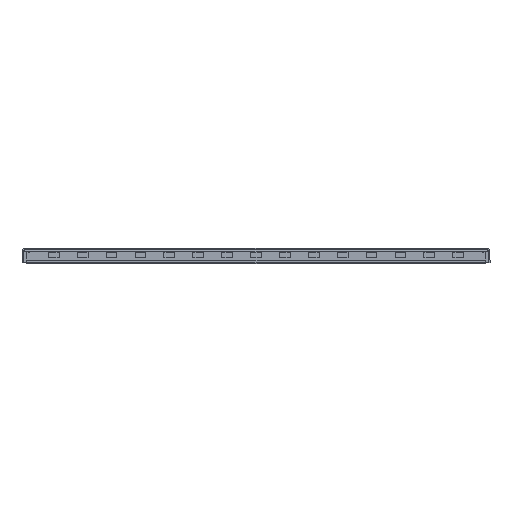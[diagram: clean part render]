
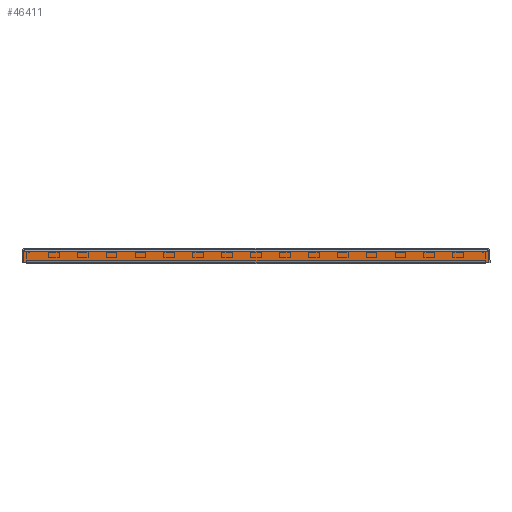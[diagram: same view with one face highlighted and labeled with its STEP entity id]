
A CAD part, front view. The second image highlights one B-rep face of the part: STEP entity #46411.
In plain terms, the highlighted planar face has unit normal (0, -1, 0).
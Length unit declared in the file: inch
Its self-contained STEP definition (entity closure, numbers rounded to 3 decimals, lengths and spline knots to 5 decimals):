
#46 = EDGE_CURVE ( 'NONE', #9383, #48178, #5247, .T. ) ;
#5247 = LINE ( 'NONE', #16031, #29472 ) ;
#5549 = LINE ( 'NONE', #61439, #57057 ) ;
#5877 = EDGE_CURVE ( 'NONE', #9383, #48758, #20850, .T. ) ;
#6692 = DIRECTION ( 'NONE',  ( 0., 1., 0. ) ) ;
#7400 = EDGE_LOOP ( 'NONE', ( #22095, #56814, #12766, #28206 ) ) ;
#9383 = VERTEX_POINT ( 'NONE', #33970 ) ;
#11162 = DIRECTION ( 'NONE',  ( 0., 0., -1. ) ) ;
#11185 = DIRECTION ( 'NONE',  ( 0., 0., -1. ) ) ;
#12766 = ORIENTED_EDGE ( 'NONE', *, *, #25135, .F. ) ;
#16031 = CARTESIAN_POINT ( 'NONE',  ( -0.75016, -0.875, -0.903 ) ) ;
#19339 = VECTOR ( 'NONE', #37791, 39.37008 ) ;
#20850 = LINE ( 'NONE', #23213, #19339 ) ;
#22095 = ORIENTED_EDGE ( 'NONE', *, *, #5877, .F. ) ;
#23213 = CARTESIAN_POINT ( 'NONE',  ( 31.525, -0.875, -0.08 ) ) ;
#25135 = EDGE_CURVE ( 'NONE', #26555, #48178, #5549, .T. ) ;
#26555 = VERTEX_POINT ( 'NONE', #53627 ) ;
#27873 = EDGE_CURVE ( 'NONE', #48758, #26555, #49594, .T. ) ;
#28206 = ORIENTED_EDGE ( 'NONE', *, *, #27873, .F. ) ;
#29472 = VECTOR ( 'NONE', #11185, 39.37008 ) ;
#32366 = DIRECTION ( 'NONE',  ( -1., 0., 0. ) ) ;
#33970 = CARTESIAN_POINT ( 'NONE',  ( -0.75016, -0.875, -0.08 ) ) ;
#35645 = CARTESIAN_POINT ( 'NONE',  ( 31.525, -0.875, -0.903 ) ) ;
#36726 = VECTOR ( 'NONE', #11162, 39.37008 ) ;
#37791 = DIRECTION ( 'NONE',  ( 1., 0., 0. ) ) ;
#40518 = DIRECTION ( 'NONE',  ( 0., 0., 1. ) ) ;
#45195 = PLANE ( 'NONE',  #50297 ) ;
#46411 = ADVANCED_FACE ( 'NONE', ( #54097 ), #45195, .F. ) ;
#46803 = CARTESIAN_POINT ( 'NONE',  ( 31.40016, -0.875, -0.08 ) ) ;
#48178 = VERTEX_POINT ( 'NONE', #60686 ) ;
#48758 = VERTEX_POINT ( 'NONE', #46803 ) ;
#49594 = LINE ( 'NONE', #49655, #36726 ) ;
#49655 = CARTESIAN_POINT ( 'NONE',  ( 31.40016, -0.875, 0. ) ) ;
#50297 = AXIS2_PLACEMENT_3D ( 'NONE', #35645, #6692, #40518 ) ;
#53627 = CARTESIAN_POINT ( 'NONE',  ( 31.40016, -0.875, -0.903 ) ) ;
#54097 = FACE_OUTER_BOUND ( 'NONE', #7400, .T. ) ;
#56814 = ORIENTED_EDGE ( 'NONE', *, *, #46, .T. ) ;
#57057 = VECTOR ( 'NONE', #32366, 39.37008 ) ;
#60686 = CARTESIAN_POINT ( 'NONE',  ( -0.75016, -0.875, -0.903 ) ) ;
#61439 = CARTESIAN_POINT ( 'NONE',  ( 31.525, -0.875, -0.903 ) ) ;
